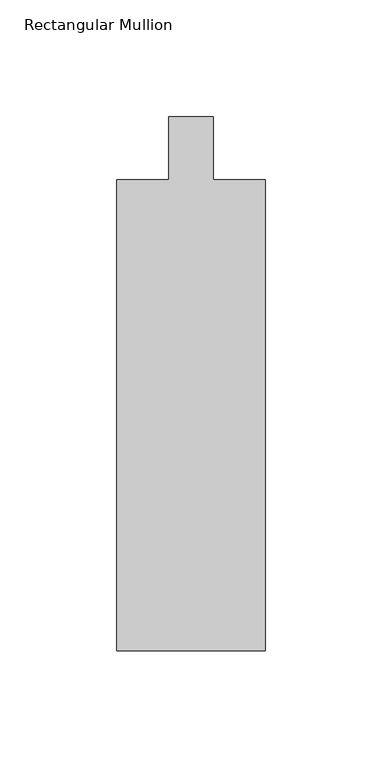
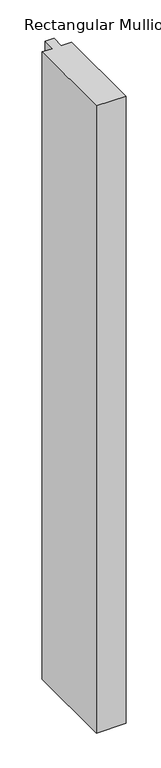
"""IFC4 building model written with IfcOpenShell, lengths in millimetres: member geometry."""

from ifc_helpers import new_model, si_unit, frame, origin, place, context, project, spatial, polyline, outline, extrude, source, transform, mapped, element, save


def rectangular_mullion_c04b954a(model_context):
    return source(origin(), model_context, "Body", "SweptSolid", [
        extrude(outline(polyline([(0.0, -228.6), (-63.5, -228.6), (-63.5, -26.9875), (-41.275, -26.9875), (-41.275, 0.0), (-22.225, 0.0), (-22.225, -26.9875), (0.0, -26.9875), (0.0, -228.6)])), frame((0.0, 0.0, -1419.86), z_axis=(0.0, 0.0, 1.0), x_axis=(1.0, 0.0, 0.0)), (0.0, 0.0, 1.0), 1419.86),
    ])


if __name__ == "__main__":
    model = new_model("IFC4")
    model_context = context("Model", 3, world=origin())
    ifc_project = project(units=[si_unit("LENGTHUNIT", "METRE", prefix="MILLI")], contexts=[model_context])
    site = spatial("IfcSite", under=ifc_project)
    building = spatial("IfcBuilding", under=site)
    placement = place(None, origin())
    rectangular_mullion_shape = rectangular_mullion_c04b954a(model_context)
    element("IfcMember", 1, ObjectType="Rectangular Mullion : 2 1/2\" x 8\" - Capless", at=placement, inside=building, context=model_context, shape_type="MappedRepresentation", body=[
        mapped(rectangular_mullion_shape, transform((0.0, 0.0, 0.0), x_axis=(1.0, 0.0, 0.0), y_axis=(0.0, 1.0, 0.0), z_axis=(0.0, 0.0, 1.0))),
    ])
    save(model, "model.ifc")
